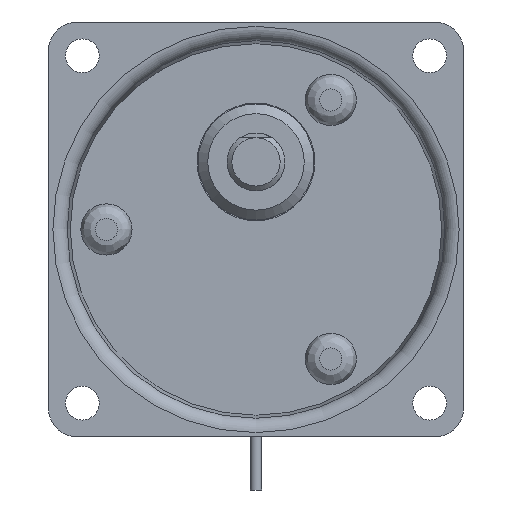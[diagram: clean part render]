
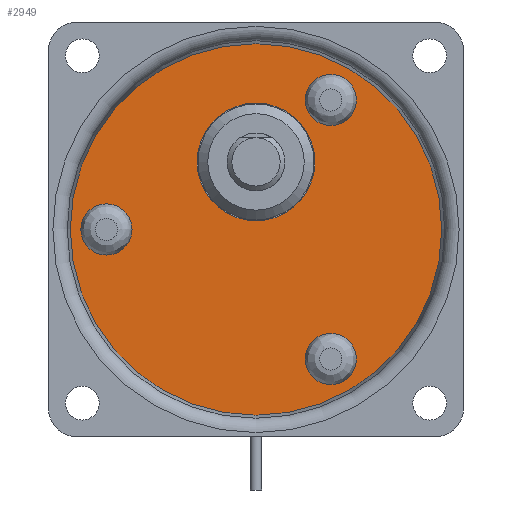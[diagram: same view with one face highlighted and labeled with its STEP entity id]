
A CAD part, front view. The second image highlights one B-rep face of the part: STEP entity #2949.
In plain terms, the highlighted planar face has unit normal (0, -1, 0).
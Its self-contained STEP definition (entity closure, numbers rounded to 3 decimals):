
#2456=CARTESIAN_POINT('',(6.425,-4.65,-11.128));
#2457=VERTEX_POINT('',#2456);
#2458=CARTESIAN_POINT('',(7.75,-4.65,-13.423));
#2459=DIRECTION('',(0.0,1.0,0.0));
#2460=DIRECTION('',(0.5,0.0,-0.866));
#2461=AXIS2_PLACEMENT_3D('',#2458,#2459,#2460);
#2462=CIRCLE('',#2461,2.65);
#2463=EDGE_CURVE('',#2457,#2457,#2462,.T.);
#2561=CARTESIAN_POINT('',(6.425,-4.65,11.128));
#2562=VERTEX_POINT('',#2561);
#2563=CARTESIAN_POINT('',(7.75,-4.65,13.423));
#2564=DIRECTION('',(0.0,1.0,0.0));
#2565=DIRECTION('',(0.5,0.0,0.866));
#2566=AXIS2_PLACEMENT_3D('',#2563,#2564,#2565);
#2567=CIRCLE('',#2566,2.65);
#2568=EDGE_CURVE('',#2562,#2562,#2567,.T.);
#2666=CARTESIAN_POINT('',(-12.85,-4.65,0.));
#2667=VERTEX_POINT('',#2666);
#2668=CARTESIAN_POINT('',(-15.5,-4.65,0.));
#2669=DIRECTION('',(0.0,1.0,0.0));
#2670=DIRECTION('',(-1.0,0.0,0.0));
#2671=AXIS2_PLACEMENT_3D('',#2668,#2669,#2670);
#2672=CIRCLE('',#2671,2.65);
#2673=EDGE_CURVE('',#2667,#2667,#2672,.T.);
#2706=CARTESIAN_POINT('',(6.1,-4.65,7.));
#2707=VERTEX_POINT('',#2706);
#2708=CARTESIAN_POINT('',(0.,-4.65,7.));
#2709=DIRECTION('',(0.0,1.0,0.0));
#2710=DIRECTION('',(-1.0,0.0,0.0));
#2711=AXIS2_PLACEMENT_3D('',#2708,#2709,#2710);
#2712=CIRCLE('',#2711,6.1);
#2713=EDGE_CURVE('',#2707,#2707,#2712,.T.);
#2791=CARTESIAN_POINT('',(0.,-4.65,-19.25));
#2792=VERTEX_POINT('',#2791);
#2793=CARTESIAN_POINT('',(0.,-4.65,0.));
#2794=DIRECTION('',(0.0,-1.0,0.0));
#2795=DIRECTION('',(0.0,0.0,1.0));
#2796=AXIS2_PLACEMENT_3D('',#2793,#2794,#2795);
#2797=CIRCLE('',#2796,19.25);
#2798=EDGE_CURVE('',#2792,#2792,#2797,.F.);
#2929=CARTESIAN_POINT('',(0.,-4.65,10.059));
#2930=DIRECTION('',(0.0,1.0,0.0));
#2931=DIRECTION('',(0.0,0.0,1.0));
#2932=AXIS2_PLACEMENT_3D('',#2929,#2930,#2931);
#2933=PLANE('',#2932);
#2934=ORIENTED_EDGE('',*,*,#2798,.F.);
#2935=EDGE_LOOP('',(#2934));
#2936=FACE_OUTER_BOUND('',#2935,.T.);
#2937=ORIENTED_EDGE('',*,*,#2463,.T.);
#2938=EDGE_LOOP('',(#2937));
#2939=FACE_BOUND('',#2938,.T.);
#2940=ORIENTED_EDGE('',*,*,#2568,.T.);
#2941=EDGE_LOOP('',(#2940));
#2942=FACE_BOUND('',#2941,.T.);
#2943=ORIENTED_EDGE('',*,*,#2673,.T.);
#2944=EDGE_LOOP('',(#2943));
#2945=FACE_BOUND('',#2944,.T.);
#2946=ORIENTED_EDGE('',*,*,#2713,.T.);
#2947=EDGE_LOOP('',(#2946));
#2948=FACE_BOUND('',#2947,.T.);
#2949=ADVANCED_FACE('',(#2936,#2939,#2942,#2945,#2948),#2933,.F.);
